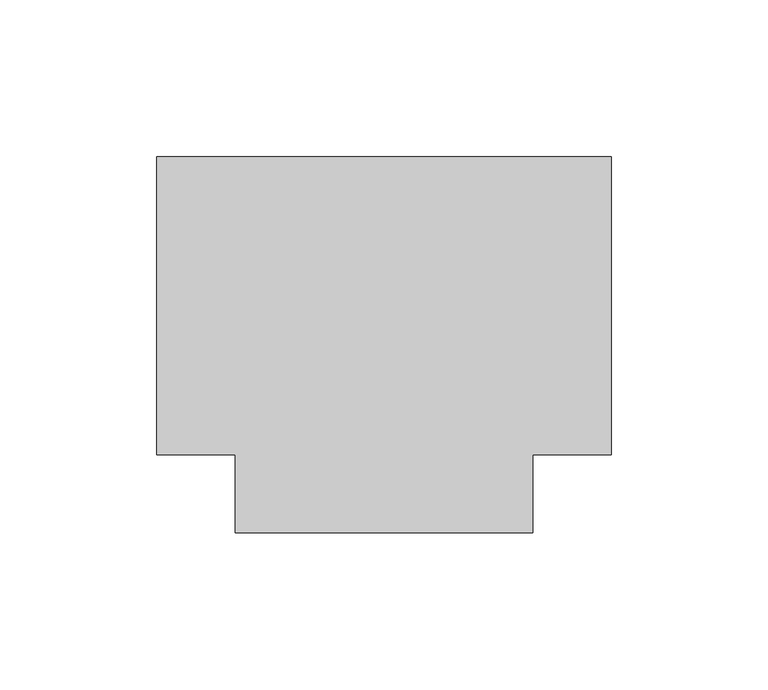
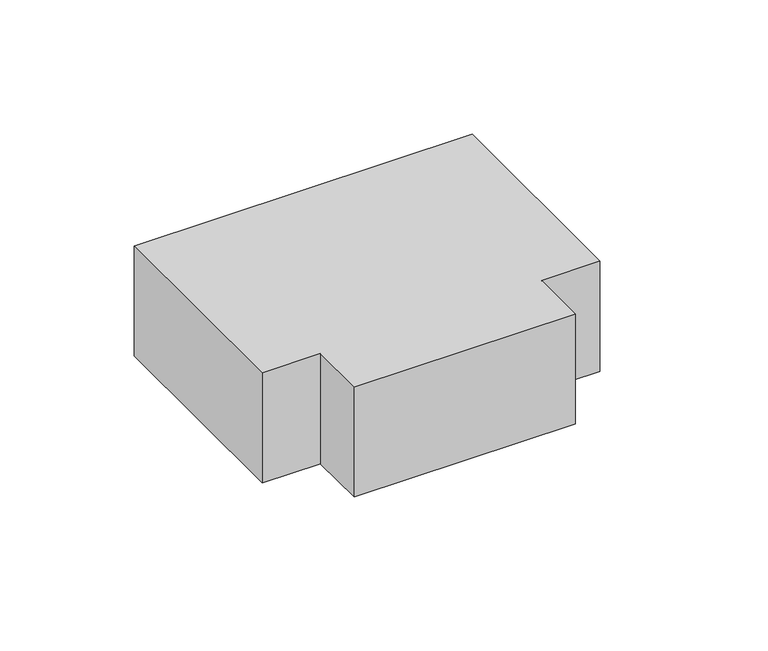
"""IFC4 building model written with IfcOpenShell, lengths in millimetres: duct fitting geometry, КНС_Тройник_DKC : Тройник (Т-образный отвод)."""

from ifc_helpers import new_model, si_unit, frame, origin, place, context, project, spatial, polyline, outline, extrude, source, transform, mapped, element, save


def duct_fitting_98a44e82(model_context):
    return source(origin(), model_context, "Body", "SweptSolid", [
        extrude(outline(polyline([(-72.5, -47.5), (-72.5, 47.5), (72.5, 47.5), (72.5, -47.5), (47.5, -47.5), (47.5, -72.5), (-47.5, -72.5), (-47.5, -47.5), (-72.5, -47.5)])), frame((0.0, 0.0, -25.0), z_axis=(0.0, 0.0, 1.0), x_axis=(1.0, 0.0, 0.0)), (0.0, 0.0, 1.0), 50.0),
    ])


if __name__ == "__main__":
    model = new_model("IFC4")
    model_context = context("Model", 3, world=origin())
    ifc_project = project(units=[si_unit("LENGTHUNIT", "METRE", prefix="MILLI")], contexts=[model_context])
    site = spatial("IfcSite", under=ifc_project)
    building = spatial("IfcBuilding", under=site)
    placement = place(None, origin())
    duct_fitting_shape = duct_fitting_98a44e82(model_context)
    element("IfcDuctFitting", 1, ObjectType="КНС_Тройник_DKC : Тройник (Т-образный отвод)", at=placement, inside=building, context=model_context, shape_type="MappedRepresentation", body=[
        mapped(duct_fitting_shape, transform((0.0, 0.0, 0.0), x_axis=(1.0, 0.0, 0.0), y_axis=(0.0, 1.0, 0.0), z_axis=(0.0, 0.0, 1.0))),
    ])
    save(model, "model.ifc")
